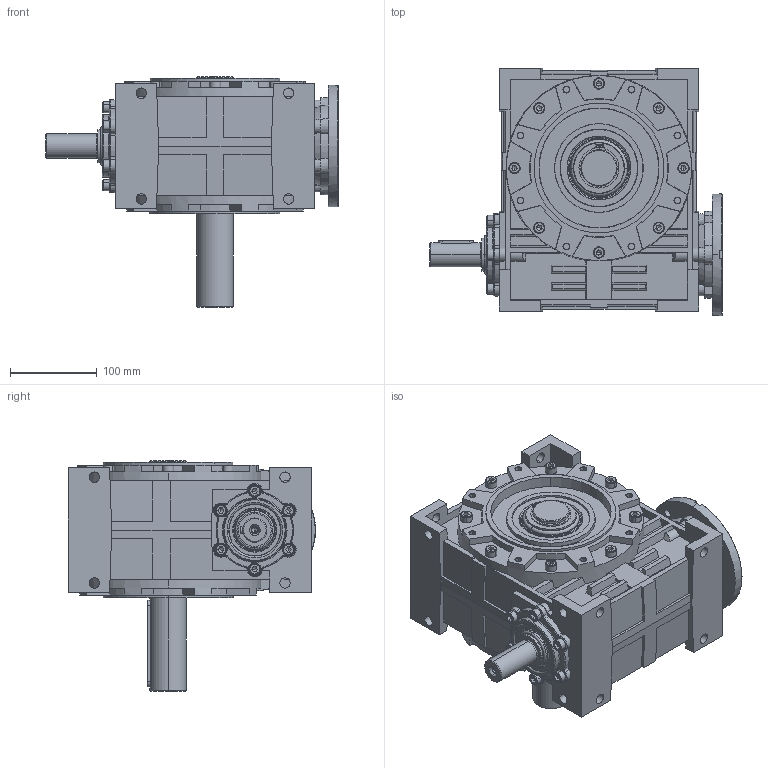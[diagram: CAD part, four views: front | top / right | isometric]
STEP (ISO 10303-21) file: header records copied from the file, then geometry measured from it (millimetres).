
FILE_DESCRIPTION (( 'STEP AP203' ), '1' );
FILE_NAME ('MR-100_140-24-WBS-WJ-1-3D.STEP', '2023-09-29T06:12:54', ( '' ), ( '' ), 'SwSTEP 2.0', 'SolidWorks 2022', '' );
FILE_SCHEMA (( 'CONFIG_CONTROL_DESIGN' ));
Length unit declared in the file: millimetre
Products named in the file (1): MR-100_140-24-WBS-WJ-1-3D
Bounding box: 337 x 285.22 x 266 mm (x, y, z)
Volume: 8187573 mm3; surface area: 478420 mm2
Topology: 1 solids, 31 shells, 1730 faces, 4265 edges, 2653 vertices
Faces by surface type: plane 809, cone 395, cylinder 311, torus 159, bspline 56
Entity records: 54696 total; most frequent: CARTESIAN_POINT 13751, DIRECTION 8746, ORIENTED_EDGE 8422, EDGE_CURVE 4211, AXIS2_PLACEMENT_3D 3385, VERTEX_POINT 2653, LINE 1976, VECTOR 1976
